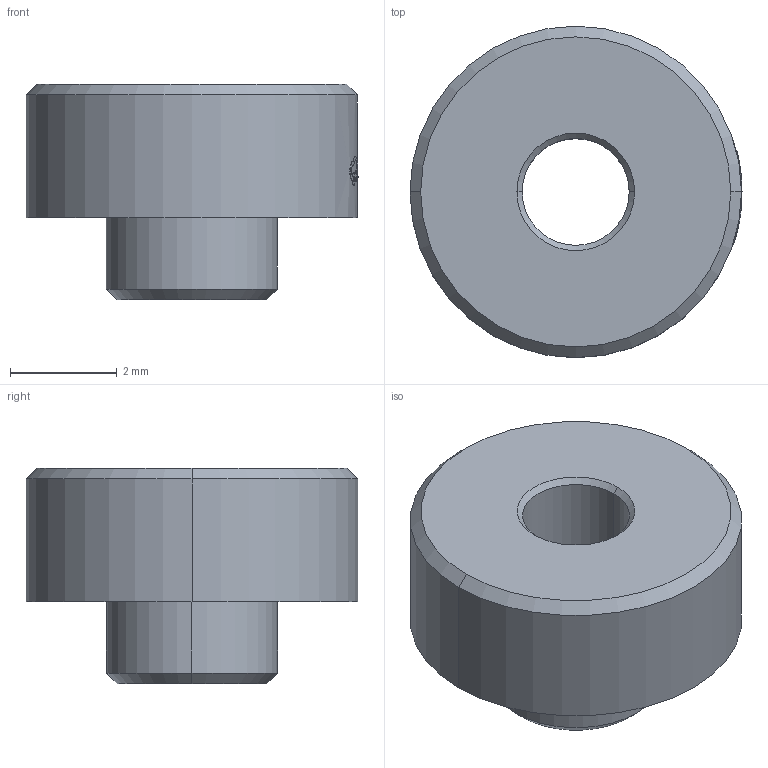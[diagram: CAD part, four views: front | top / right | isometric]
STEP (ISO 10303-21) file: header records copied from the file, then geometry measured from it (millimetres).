
FILE_DESCRIPTION (( 'STEP AP214' ), '1' );
FILE_NAME ('SMD-1_BD6.2-D3.6.step', '2022-07-26T08:40:30', ( '' ), ( '' ), 'SwSTEP 2.0', 'SolidWorks 2020', '' );
FILE_SCHEMA (( 'AUTOMOTIVE_DESIGN' ));
Length unit declared in the file: millimetre
Products named in the file (1): SMD-1_BD6.2-D3.6
Bounding box: 6.21 x 6.2 x 4.03 mm (x, y, z)
Volume: 74.5 mm3; surface area: 139.4 mm2
Topology: 1 solids, 1 shells, 301 faces, 814 edges, 540 vertices
Faces by surface type: bspline 135, plane 131, cylinder 27, cone 8
Entity records: 13568 total; most frequent: CARTESIAN_POINT 4377, ORIENTED_EDGE 1628, DIRECTION 853, EDGE_CURVE 814, VERTEX_POINT 540, B_SPLINE_CURVE_WITH_KNOTS 419, EDGE_LOOP 328, ADVANCED_FACE 301
